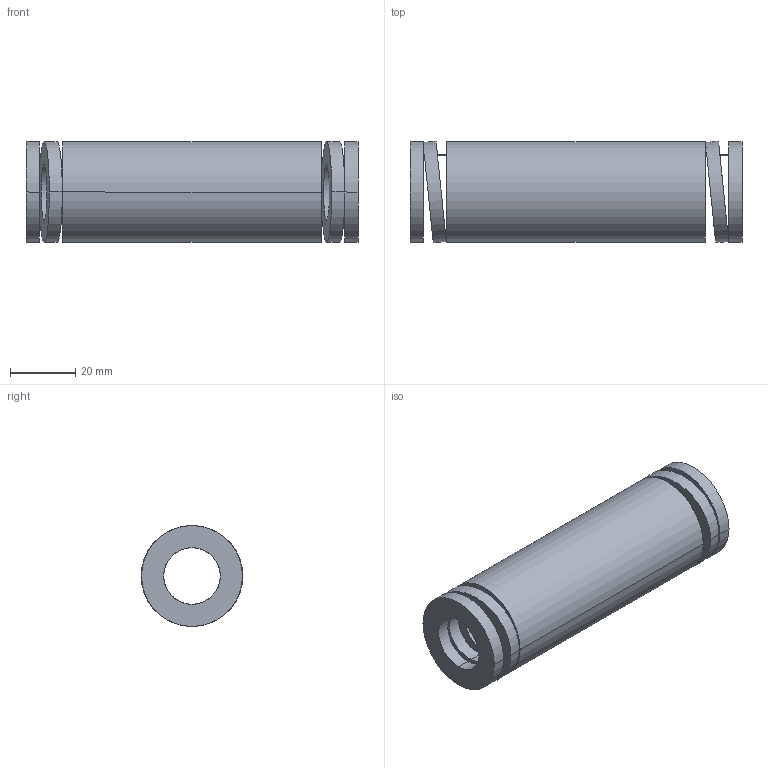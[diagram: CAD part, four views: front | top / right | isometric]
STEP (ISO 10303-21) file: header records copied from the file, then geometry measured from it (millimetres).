
FILE_DESCRIPTION(('CATIA V5 STEP Exchange'),'2;1');
FILE_NAME('C:\Users\Utente\Desktop\IO LAVORO\3D X SITO CF\X SITO\3D files 392B\392-B32-102.stp','2021-08-13T08:56:54+00:00',('none'),('none'),'CATIA Version 5 Release 20 GA (IN-10)','CATIA V5 STEP AP203','none');
FILE_SCHEMA(('CONFIG_CONTROL_DESIGN'));
Length unit declared in the file: millimetre
Products named in the file (1): 392-B32-102
Bounding box: 102 x 31.25 x 31 mm (x, y, z)
Volume: 49382 mm3; surface area: 19697.9 mm2
Topology: 1 solids, 1 shells, 38 faces, 92 edges, 64 vertices
Faces by surface type: cylinder 28, plane 10
Entity records: 1560 total; most frequent: CARTESIAN_POINT 667, ORIENTED_EDGE 184, DIRECTION 131, EDGE_CURVE 92, AXIS2_PLACEMENT_3D 66, VERTEX_POINT 64, EDGE_LOOP 56, ADVANCED_FACE 38
